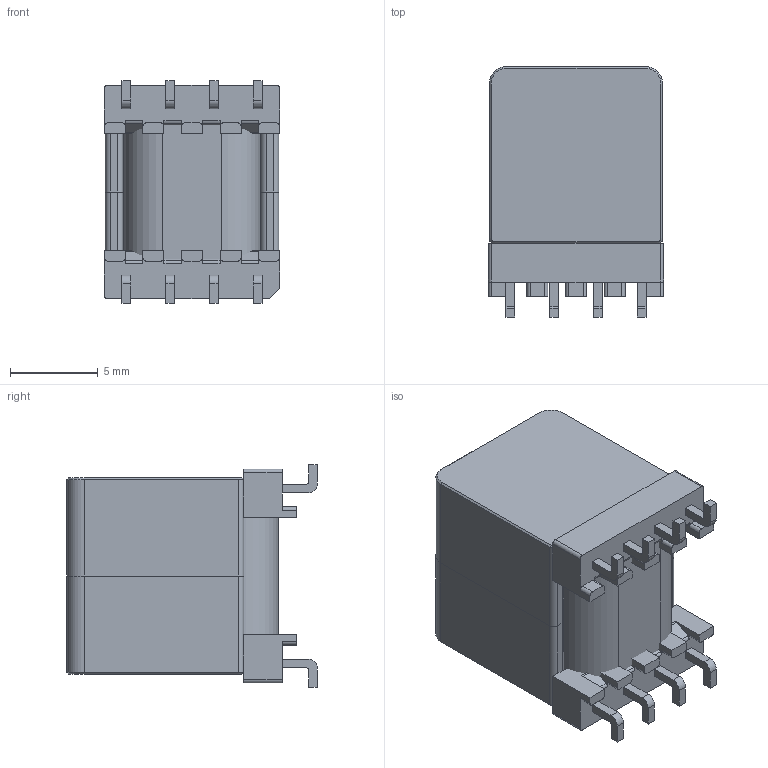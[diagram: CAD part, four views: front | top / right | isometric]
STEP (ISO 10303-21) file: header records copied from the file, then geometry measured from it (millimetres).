
FILE_DESCRIPTION (( 'STEP AP214' ), '1' );
FILE_NAME ('PA5100.XXXNL.STEP', '2021-02-15T23:43:08', ( '' ), ( '' ), 'SwSTEP 2.0', 'SolidWorks 2019', '' );
FILE_SCHEMA (( 'AUTOMOTIVE_DESIGN' ));
Length unit declared in the file: inch
Products named in the file (4): PA5100.XXXNL; 042-02482.001; 042-XXXX.001 EP7+ Bobbin Wire; 032-02469.XXX-RevC
Assembly tree (4 placements, depth 2):
  PA5100.XXXNL
    042-02482.001
    032-02469.XXX-RevC  x2
    042-XXXX.001 EP7+ Bobbin Wire
Bounding box: 10 x 14.3 x 12.7 mm (x, y, z)
Volume: 1284.7 mm3; surface area: 2455.1 mm2
Topology: 4 solids, 4 shells, 300 faces, 820 edges, 536 vertices
Faces by surface type: plane 173, cylinder 111, torus 8, cone 8
Entity records: 9588 total; most frequent: CARTESIAN_POINT 1505, DIRECTION 1480, ORIENTED_EDGE 1464, EDGE_CURVE 732, VECTOR 522, LINE 522, VERTEX_POINT 480, AXIS2_PLACEMENT_3D 479
